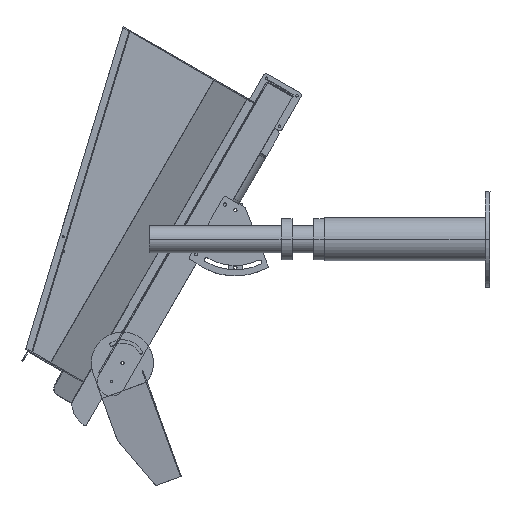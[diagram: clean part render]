
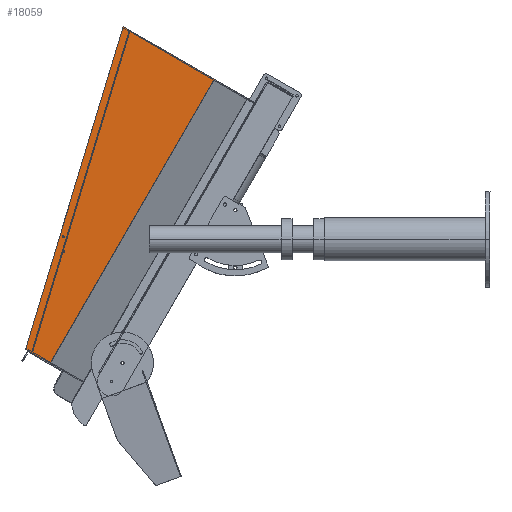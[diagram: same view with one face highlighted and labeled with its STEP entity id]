
A CAD part, left-side view. The second image highlights one B-rep face of the part: STEP entity #18059.
In plain terms, the highlighted planar face has unit normal (-1, 0, 0).
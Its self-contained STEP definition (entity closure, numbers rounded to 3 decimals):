
#17 = CARTESIAN_POINT ( 'NONE',  ( -8754.382, 765.831, 3400.807 ) ) ;
#85 = EDGE_CURVE ( 'NONE', #11265, #20219, #9684, .T. ) ;
#88 = CARTESIAN_POINT ( 'NONE',  ( -8754.382, 449.935, 3730.148 ) ) ;
#156 = CARTESIAN_POINT ( 'NONE',  ( -8754.382, 765.831, 3400.807 ) ) ;
#333 = CIRCLE ( 'NONE', #11477, 2.1 ) ;
#725 = EDGE_CURVE ( 'NONE', #13150, #8962, #9371, .T. ) ;
#1558 = CARTESIAN_POINT ( 'NONE',  ( -8754.382, 793.02, 3135.908 ) ) ;
#2184 = VECTOR ( 'NONE', #8323, 1000. ) ;
#2609 = CARTESIAN_POINT ( 'NONE',  ( -8754.382, 763.495, 3372.653 ) ) ;
#2660 = DIRECTION ( 'NONE',  ( 0., 0.866, 0.5 ) ) ;
#2971 = AXIS2_PLACEMENT_3D ( 'NONE', #156, #14741, #14855 ) ;
#3525 = AXIS2_PLACEMENT_3D ( 'NONE', #4759, #19448, #13084 ) ;
#3644 = VECTOR ( 'NONE', #16040, 1000. ) ;
#3688 = ORIENTED_EDGE ( 'NONE', *, *, #3985, .F. ) ;
#3985 = EDGE_CURVE ( 'NONE', #8962, #13150, #4604, .T. ) ;
#4604 = CIRCLE ( 'NONE', #16412, 2.1 ) ;
#4621 = DIRECTION ( 'NONE',  ( 0., -0.5, 0.866 ) ) ;
#4683 = VECTOR ( 'NONE', #14413, 1000. ) ;
#4759 = CARTESIAN_POINT ( 'NONE',  ( -8754.382, 764.545, 3370.834 ) ) ;
#4893 = VECTOR ( 'NONE', #9066, 1000. ) ;
#5159 = ORIENTED_EDGE ( 'NONE', *, *, #7963, .F. ) ;
#5900 = AXIS2_PLACEMENT_3D ( 'NONE', #15767, #18953, #2660 ) ;
#5940 = FACE_BOUND ( 'NONE', #11032, .T. ) ;
#6212 = DIRECTION ( 'NONE',  ( -1., 0., 0. ) ) ;
#6311 = CARTESIAN_POINT ( 'NONE',  ( -8754.382, 764.545, 3370.834 ) ) ;
#6460 = CARTESIAN_POINT ( 'NONE',  ( -8754.382, 640.461, 3840.148 ) ) ;
#6652 = EDGE_CURVE ( 'NONE', #10760, #11265, #6850, .T. ) ;
#6785 = EDGE_CURVE ( 'NONE', #13393, #20219, #13731, .T. ) ;
#6850 = LINE ( 'NONE', #16363, #2184 ) ;
#7263 = CIRCLE ( 'NONE', #3525, 2.1 ) ;
#7963 = EDGE_CURVE ( 'NONE', #10760, #13393, #11439, .T. ) ;
#8323 = DIRECTION ( 'NONE',  ( 0., 0.29, -0.957 ) ) ;
#8962 = VERTEX_POINT ( 'NONE', #12721 ) ;
#9066 = DIRECTION ( 'NONE',  ( 0., 0.5, -0.866 ) ) ;
#9098 = ORIENTED_EDGE ( 'NONE', *, *, #725, .F. ) ;
#9201 = PLANE ( 'NONE',  #5900 ) ;
#9305 = FACE_BOUND ( 'NONE', #20674, .T. ) ;
#9371 = CIRCLE ( 'NONE', #2971, 2.1 ) ;
#9684 = LINE ( 'NONE', #1558, #3644 ) ;
#10760 = VERTEX_POINT ( 'NONE', #6460 ) ;
#11032 = EDGE_LOOP ( 'NONE', ( #3688, #9098 ) ) ;
#11265 = VERTEX_POINT ( 'NONE', #14004 ) ;
#11439 = LINE ( 'NONE', #20774, #4683 ) ;
#11477 = AXIS2_PLACEMENT_3D ( 'NONE', #6311, #6212, #4621 ) ;
#12126 = VERTEX_POINT ( 'NONE', #2609 ) ;
#12489 = FACE_OUTER_BOUND ( 'NONE', #14478, .T. ) ;
#12721 = CARTESIAN_POINT ( 'NONE',  ( -8754.382, 764.781, 3402.626 ) ) ;
#13084 = DIRECTION ( 'NONE',  ( 0., -0.5, 0.866 ) ) ;
#13150 = VERTEX_POINT ( 'NONE', #15230 ) ;
#13311 = DIRECTION ( 'NONE',  ( -1., 0., 0. ) ) ;
#13393 = VERTEX_POINT ( 'NONE', #88 ) ;
#13731 = LINE ( 'NONE', #18702, #4893 ) ;
#14004 = CARTESIAN_POINT ( 'NONE',  ( -8754.382, 844.981, 3165.908 ) ) ;
#14413 = DIRECTION ( 'NONE',  ( 0., -0.866, -0.5 ) ) ;
#14478 = EDGE_LOOP ( 'NONE', ( #19553, #19865, #18008, #5159 ) ) ;
#14741 = DIRECTION ( 'NONE',  ( -1., 0., 0. ) ) ;
#14855 = DIRECTION ( 'NONE',  ( 0., -0.5, 0.866 ) ) ;
#15230 = CARTESIAN_POINT ( 'NONE',  ( -8754.382, 766.881, 3398.988 ) ) ;
#15558 = CARTESIAN_POINT ( 'NONE',  ( -8754.382, 793.02, 3135.908 ) ) ;
#15767 = CARTESIAN_POINT ( 'NONE',  ( -8754.382, 699.935, 3297.135 ) ) ;
#16040 = DIRECTION ( 'NONE',  ( 0., -0.866, -0.5 ) ) ;
#16363 = CARTESIAN_POINT ( 'NONE',  ( -8754.382, 796.308, 3326.369 ) ) ;
#16412 = AXIS2_PLACEMENT_3D ( 'NONE', #17, #13311, #17970 ) ;
#16509 = CARTESIAN_POINT ( 'NONE',  ( -8754.382, 765.595, 3369.016 ) ) ;
#17753 = VERTEX_POINT ( 'NONE', #16509 ) ;
#17970 = DIRECTION ( 'NONE',  ( 0., -0.5, 0.866 ) ) ;
#18008 = ORIENTED_EDGE ( 'NONE', *, *, #6785, .F. ) ;
#18059 = ADVANCED_FACE ( 'NONE', ( #9305, #5940, #12489 ), #9201, .F. ) ;
#18174 = EDGE_CURVE ( 'NONE', #12126, #17753, #7263, .T. ) ;
#18702 = CARTESIAN_POINT ( 'NONE',  ( -8754.382, 699.935, 3297.135 ) ) ;
#18953 = DIRECTION ( 'NONE',  ( 1., 0., 0. ) ) ;
#19448 = DIRECTION ( 'NONE',  ( -1., 0., 0. ) ) ;
#19553 = ORIENTED_EDGE ( 'NONE', *, *, #6652, .T. ) ;
#19865 = ORIENTED_EDGE ( 'NONE', *, *, #85, .T. ) ;
#19978 = ORIENTED_EDGE ( 'NONE', *, *, #18174, .F. ) ;
#20219 = VERTEX_POINT ( 'NONE', #15558 ) ;
#20667 = EDGE_CURVE ( 'NONE', #17753, #12126, #333, .T. ) ;
#20674 = EDGE_LOOP ( 'NONE', ( #19978, #20714 ) ) ;
#20714 = ORIENTED_EDGE ( 'NONE', *, *, #20667, .F. ) ;
#20774 = CARTESIAN_POINT ( 'NONE',  ( -8754.382, 449.935, 3730.148 ) ) ;
